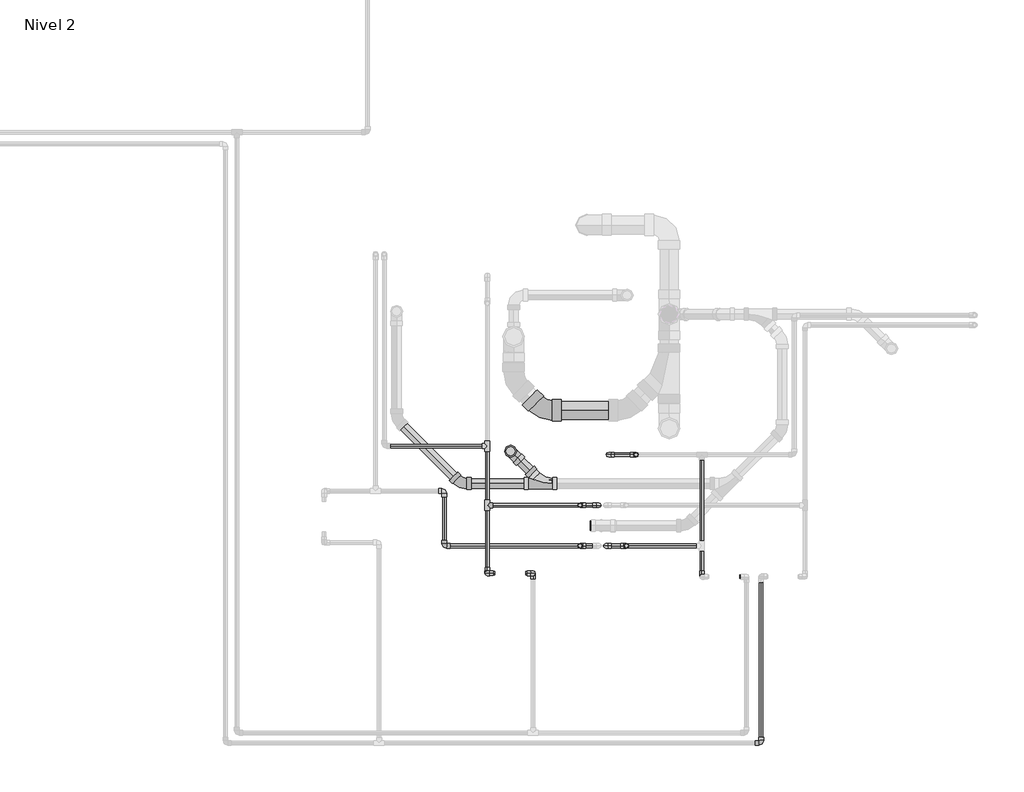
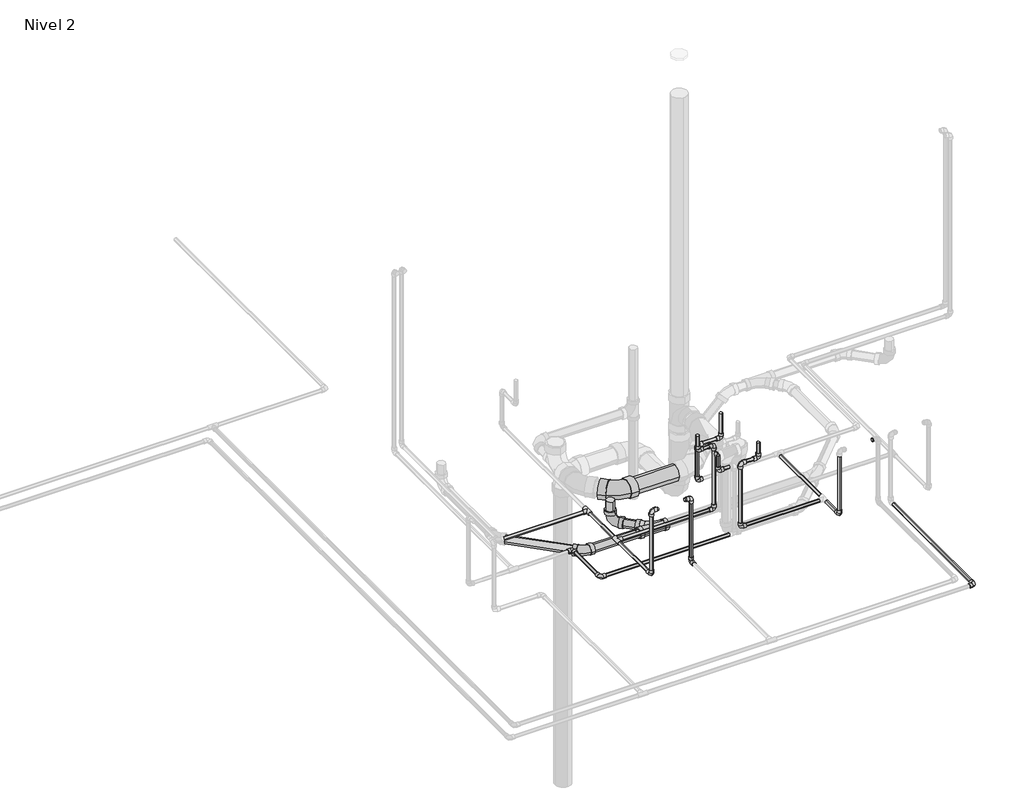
# One storey, part 2 of 9: 33 pipe segments, 24 pipe fittings.
"""IFC4 building model written with IfcOpenShell, lengths in millimetres."""

from ifc_helpers import new_model, si_unit, point, frame, frame_2d, origin, place, context, project, spatial, circle_curve, trimmed, segment, composite_curve, outline, extrude, transform, mapped, element, save
from components import pipe_fitting_ab418b84, pipe_fitting_0163322b, m_codo_pvc_serie_40_9ad74631, m_codo_pvc_serie_40_ba05d404, m_codo_pvc_serie_40_dwv1_5c0ec739, m_codo_pvc_serie_40_dwv1_9a7ca077, m_codo_pvc_serie_40_dwv1_6f1a2495

model = new_model("IFC4")

# Units and contexts
model_context = context("Model", 3, world=origin())
ifc_project = project(units=[si_unit("LENGTHUNIT", "METRE", prefix="MILLI")], contexts=[model_context])

# Site, building, storey
site = spatial("IfcSite", under=ifc_project)
building = spatial("IfcBuilding", under=site)
storey = spatial("IfcBuildingStorey", under=building, Name="Nivel 2", Elevation=2800.0)

# Pipe fittings
placement = place(None, origin())
pipe_fitting_shape = pipe_fitting_ab418b84(model_context)
element("IfcPipeFitting", 1, ObjectType="M_Te - PVC - Serie 40 : Estándar", at=placement, inside=storey, context=model_context, shape_type="MappedRepresentation", body=[
    mapped(pipe_fitting_shape, transform((6373.4849581, 5443.3784167, 2750.0), x_axis=(0.0, 1.0, 0.0), y_axis=(-1.0, 0.0, 0.0), z_axis=(0.0, 0.0, 1.0))),
])
element("IfcPipeFitting", 2, ObjectType="M_Te - PVC - Serie 40 : Estándar", at=placement, inside=storey, context=model_context, shape_type="MappedRepresentation", body=[
    mapped(pipe_fitting_shape, transform((6373.4849581, 5788.5620607, 2750.0), x_axis=(0.0, 1.0, 0.0), y_axis=(1.0, 0.0, 0.0), z_axis=(0.0, 0.0, -1.0))),
])
pipe_fitting_2_shape = pipe_fitting_0163322b(model_context)
element("IfcPipeFitting", 3, ObjectType="M_Sanitario con te de reducción - PVC - Serie 40 - DWV : Estándar", at=placement, inside=storey, context=model_context, shape_type="MappedRepresentation", body=[
    mapped(pipe_fitting_2_shape, transform((6697.357966, 5569.8260974, 2650.0), x_axis=(-1.0, 0.0, 0.0), y_axis=(0.0, -1.0, 0.0), z_axis=(0.0, 0.0, 1.0))),
])
m_codo_pvc_serie_40_shape = m_codo_pvc_serie_40_9ad74631(model_context)
element("IfcPipeFitting", 4, ObjectType="M_Codo - PVC - Serie 40 : Estándar", at=placement, inside=storey, context=model_context, shape_type="MappedRepresentation", body=[
    mapped(m_codo_pvc_serie_40_shape, transform((6913.1208859, 5443.3784167, 3200.0), x_axis=(0.0, 0.0, -1.0), y_axis=(1.0, 0.0, 0.0), z_axis=(0.0, -1.0, 0.0))),
])
element("IfcPipeFitting", 5, ObjectType="M_Codo - PVC - Serie 40 : Estándar", at=placement, inside=storey, context=model_context, shape_type="MappedRepresentation", body=[
    mapped(m_codo_pvc_serie_40_shape, transform((7022.0365713, 5443.3784167, 3200.0), x_axis=(1.0, 0.0, 0.0), y_axis=(0.0, 0.0, -1.0), z_axis=(0.0, 1.0, 0.0))),
])
element("IfcPipeFitting", 6, ObjectType="M_Codo - PVC - Serie 40 : Estándar", at=placement, inside=storey, context=model_context, shape_type="MappedRepresentation", body=[
    mapped(m_codo_pvc_serie_40_shape, transform((6640.0882468, 5047.0181394, 2750.0), x_axis=(0.0, 1.0, 0.0), y_axis=(0.0, 0.0, 1.0), z_axis=(1.0, 0.0, 0.0))),
])
element("IfcPipeFitting", 7, ObjectType="M_Codo - PVC - Serie 40 : Estándar", at=placement, inside=storey, context=model_context, shape_type="MappedRepresentation", body=[
    mapped(m_codo_pvc_serie_40_shape, transform((6640.0882468, 5047.0181394, 3200.0), x_axis=(0.0, 0.0, 1.0), y_axis=(-1.0, 0.0, 0.0), z_axis=(0.0, -1.0, 0.0))),
])
element("IfcPipeFitting", 8, ObjectType="M_Codo - PVC - Serie 40 : Estándar", at=placement, inside=storey, context=model_context, shape_type="MappedRepresentation", body=[
    mapped(m_codo_pvc_serie_40_shape, transform((6373.4849581, 5047.0181394, 3200.0), x_axis=(-1.0, 0.0, 0.0), y_axis=(0.0, 0.0, -1.0), z_axis=(0.0, -1.0, 0.0))),
])
element("IfcPipeFitting", 9, ObjectType="M_Codo - PVC - Serie 40 : Estándar", at=placement, inside=storey, context=model_context, shape_type="MappedRepresentation", body=[
    mapped(m_codo_pvc_serie_40_shape, transform((6373.4849581, 5047.0181394, 2750.0), x_axis=(0.0, 0.0, -1.0), y_axis=(0.0, 1.0, 0.0), z_axis=(1.0, 0.0, 0.0))),
])
element("IfcPipeFitting", 10, ObjectType="M_Codo - PVC - Serie 40 : Estándar", at=placement, inside=storey, context=model_context, shape_type="MappedRepresentation", body=[
    mapped(m_codo_pvc_serie_40_shape, transform((7022.0365713, 5443.3784167, 2750.0), x_axis=(0.0, 0.0, -1.0), y_axis=(-1.0, 0.0, 0.0), z_axis=(0.0, 1.0, 0.0))),
])
element("IfcPipeFitting", 11, ObjectType="M_Codo - PVC - Serie 40 : Estándar", at=placement, inside=storey, context=model_context, shape_type="MappedRepresentation", body=[
    mapped(m_codo_pvc_serie_40_shape, transform((7239.3408631, 5738.1215351, 3000.0), x_axis=(0.0, 0.0, -1.0), y_axis=(-1.0, 0.0, 0.0), z_axis=(0.0, 1.0, 0.0))),
])
element("IfcPipeFitting", 12, ObjectType="M_Codo - PVC - Serie 40 : Estándar", at=placement, inside=storey, context=model_context, shape_type="MappedRepresentation", body=[
    mapped(m_codo_pvc_serie_40_shape, transform((7079.3408631, 5738.1215351, 3000.0), x_axis=(-1.0, 0.0, 0.0), y_axis=(0.0, 0.0, -1.0), z_axis=(0.0, -1.0, 0.0))),
])
element("IfcPipeFitting", 13, ObjectType="M_Codo - PVC - Serie 40 : Estándar", at=placement, inside=storey, context=model_context, shape_type="MappedRepresentation", body=[
    mapped(m_codo_pvc_serie_40_shape, transform((7079.3408631, 5738.1215351, 2750.0), x_axis=(0.0, 0.0, -1.0), y_axis=(1.0, 0.0, 0.0), z_axis=(0.0, -1.0, 0.0))),
])
element("IfcPipeFitting", 14, ObjectType="M_Codo - PVC - Serie 40 : Estándar", at=placement, inside=storey, context=model_context, shape_type="MappedRepresentation", body=[
    mapped(m_codo_pvc_serie_40_shape, transform((7182.9224126, 5206.6215833, 3200.0), x_axis=(0.0, 0.0, -1.0), y_axis=(-1.0, 0.0, 0.0), z_axis=(0.0, 1.0, 0.0))),
])
element("IfcPipeFitting", 15, ObjectType="M_Codo - PVC - Serie 40 : Estándar", at=placement, inside=storey, context=model_context, shape_type="MappedRepresentation", body=[
    mapped(m_codo_pvc_serie_40_shape, transform((7062.9224126, 5206.6215833, 3200.0), x_axis=(-1.0, 0.0, 0.0), y_axis=(0.0, 0.0, -1.0), z_axis=(0.0, -1.0, 0.0))),
])
element("IfcPipeFitting", 16, ObjectType="M_Codo - PVC - Serie 40 : Estándar", at=placement, inside=storey, context=model_context, shape_type="MappedRepresentation", body=[
    mapped(m_codo_pvc_serie_40_shape, transform((7062.9224126, 5206.6215833, 2750.0), x_axis=(0.0, 0.0, -1.0), y_axis=(1.0, 0.0, 0.0), z_axis=(0.0, -1.0, 0.0))),
])
element("IfcPipeFitting", 17, ObjectType="M_Codo - PVC - Serie 40 : Estándar", at=placement, inside=storey, context=model_context, shape_type="MappedRepresentation", body=[
    mapped(m_codo_pvc_serie_40_shape, transform((7622.9224126, 5026.6215833, 2750.0), x_axis=(0.0, -1.0, 0.0), y_axis=(0.0, 0.0, 1.0), z_axis=(-1.0, 0.0, 0.0))),
])
element("IfcPipeFitting", 18, ObjectType="M_Codo - PVC - Serie 40 : Estándar", at=placement, inside=storey, context=model_context, shape_type="MappedRepresentation", body=[
    mapped(m_codo_pvc_serie_40_shape, transform((7968.2736664, 4058.5261191, 2720.0), x_axis=(1.0, 0.0, 0.0), y_axis=(0.0, 1.0, 0.0), z_axis=(0.0, 0.0, 1.0))),
])
element("IfcPipeFitting", 19, ObjectType="M_Codo - PVC - Serie 40 : Estándar", at=placement, inside=storey, context=model_context, shape_type="MappedRepresentation", body=[
    mapped(m_codo_pvc_serie_40_shape, transform((6123.2442783, 5526.6215833, 2720.0), x_axis=(0.0, 1.0, 0.0), y_axis=(-1.0, 0.0, 0.0), z_axis=(0.0, 0.0, 1.0))),
])
element("IfcPipeFitting", 20, ObjectType="M_Codo - PVC - Serie 40 : Estándar", at=placement, inside=storey, context=model_context, shape_type="MappedRepresentation", body=[
    mapped(m_codo_pvc_serie_40_shape, transform((6123.2442783, 5206.6215833, 2720.0), x_axis=(0.0, -1.0, 0.0), y_axis=(1.0, 0.0, 0.0), z_axis=(0.0, 0.0, 1.0))),
])
m_codo_pvc_serie_40_2_shape = m_codo_pvc_serie_40_ba05d404(model_context)
element("IfcPipeFitting", 21, ObjectType="M_Codo - PVC - Serie 40 : Estándar", at=placement, inside=storey, context=model_context, shape_type="MappedRepresentation", body=[
    mapped(m_codo_pvc_serie_40_2_shape, transform((6913.1208859, 5206.6215833, 3200.0), x_axis=(0.0, 0.0, -1.0), y_axis=(-1.0, 0.0, 0.0), z_axis=(0.0, 1.0, 0.0))),
])
m_codo_pvc_serie_40_dwv1_shape = m_codo_pvc_serie_40_dwv1_5c0ec739(model_context)
element("IfcPipeFitting", 22, ObjectType="M_Codo - PVC - Serie 40 - DWV1 : Estándar 2", at=placement, inside=storey, context=model_context, shape_type="MappedRepresentation", body=[
    mapped(m_codo_pvc_serie_40_dwv1_shape, transform((6509.082159, 5758.1019044, 2650.0), x_axis=(0.0, 0.0, -1.0), y_axis=(0.7071067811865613, -0.7071067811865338, 0.0), z_axis=(-0.7071067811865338, -0.7071067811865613, 0.0))),
])
m_codo_pvc_serie_40_dwv1_2_shape = m_codo_pvc_serie_40_dwv1_9a7ca077(model_context)
element("IfcPipeFitting", 23, ObjectType="M_Codo - PVC - Serie 40 - DWV1 : Estándar 2", at=placement, inside=storey, context=model_context, shape_type="MappedRepresentation", body=[
    mapped(m_codo_pvc_serie_40_dwv1_2_shape, transform((6696.5258369, 5996.1455314, 2650.0), x_axis=(0.7071067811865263, -0.7071067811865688, 0.0), y_axis=(0.7071067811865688, 0.7071067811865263, 0.0), z_axis=(0.0, 0.0, 1.0))),
])
m_codo_pvc_serie_40_dwv1_3_shape = m_codo_pvc_serie_40_dwv1_6f1a2495(model_context)
element("IfcPipeFitting", 24, ObjectType="M_Codo - PVC - Serie 40 - DWV1 : Estándar 2", at=placement, inside=storey, context=model_context, shape_type="MappedRepresentation", body=[
    mapped(m_codo_pvc_serie_40_dwv1_3_shape, transform((6219.5377594, 5569.8260974, 2650.0), x_axis=(0.7071067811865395, -0.7071067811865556, 0.0), y_axis=(0.7071067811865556, 0.7071067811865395, 0.0), z_axis=(0.0, 0.0, 1.0))),
])

# Pipe segments
element("IfcPipeSegment", 25, ObjectType="Tuberia PVC Agua Fria", at=placement, inside=storey, context=model_context, shape_type="SweptSolid", body=[
    extrude(outline(composite_curve([segment(trimmed(circle_curve(frame_2d((5443.3784167, 2750.0)), 10.31875), [point((5453.6971667, 2750.0))], [point((5443.3784167, 2739.68125))], False, "CARTESIAN"), True, "CONTINUOUS"), segment(trimmed(circle_curve(frame_2d((5443.3784167, 2750.0)), 10.31875), [point((5443.3784167, 2739.68125))], [point((5433.0596667, 2750.0))], False, "CARTESIAN"), True, "CONTINUOUS"), segment(trimmed(circle_curve(frame_2d((5443.3784167, 2750.0)), 10.31875), [point((5433.0596667, 2750.0))], [point((5443.3784167, 2760.31875))], False, "CARTESIAN"), True, "CONTINUOUS"), segment(trimmed(circle_curve(frame_2d((5443.3784167, 2750.0)), 10.31875), [point((5443.3784167, 2760.31875))], [point((5453.6971667, 2750.0))], False, "CARTESIAN"), True, "CONTINUOUS")], self_intersect=False)), frame((6403.9451144, 0.0, 0.0), z_axis=(1.0, 0.0, 0.0), x_axis=(0.0, 1.0, 0.0)), (0.0, 0.0, 1.0), 584.6904569),
])
element("IfcPipeSegment", 26, ObjectType="Tuberia PVC Agua Fria", at=placement, inside=storey, context=model_context, shape_type="SweptSolid", body=[
    extrude(outline(composite_curve([segment(trimmed(circle_curve(frame_2d((5443.3784167, 3200.0)), 10.31875), [point((5433.0596667, 3200.0))], [point((5443.3784167, 3210.31875))], False, "CARTESIAN"), True, "CONTINUOUS"), segment(trimmed(circle_curve(frame_2d((5443.3784167, 3200.0)), 10.31875), [point((5443.3784167, 3210.31875))], [point((5453.6971667, 3200.0))], False, "CARTESIAN"), True, "CONTINUOUS"), segment(trimmed(circle_curve(frame_2d((5443.3784167, 3200.0)), 10.31875), [point((5453.6971667, 3200.0))], [point((5443.3784167, 3189.68125))], False, "CARTESIAN"), True, "CONTINUOUS"), segment(trimmed(circle_curve(frame_2d((5443.3784167, 3200.0)), 10.31875), [point((5443.3784167, 3189.68125))], [point((5433.0596667, 3200.0))], False, "CARTESIAN"), True, "CONTINUOUS")], self_intersect=False)), frame((6946.5218859, 0.0, 0.0), z_axis=(1.0, 0.0, 0.0), x_axis=(0.0, 1.0, 0.0)), (0.0, 0.0, 1.0), 42.1136854),
])
element("IfcPipeSegment", 27, ObjectType="Tuberia PVC Agua Fria", at=placement, inside=storey, context=model_context, shape_type="SweptSolid", body=[
    extrude(outline(composite_curve([segment(trimmed(circle_curve(frame_2d((6913.1208859, 5443.3784167)), 10.31875), [point((6923.4396359, 5443.3784167))], [point((6913.1208859, 5433.0596667))], False, "CARTESIAN"), True, "CONTINUOUS"), segment(trimmed(circle_curve(frame_2d((6913.1208859, 5443.3784167)), 10.31875), [point((6913.1208859, 5433.0596667))], [point((6902.8021359, 5443.3784167))], False, "CARTESIAN"), True, "CONTINUOUS"), segment(trimmed(circle_curve(frame_2d((6913.1208859, 5443.3784167)), 10.31875), [point((6902.8021359, 5443.3784167))], [point((6913.1208859, 5453.6971667))], False, "CARTESIAN"), True, "CONTINUOUS"), segment(trimmed(circle_curve(frame_2d((6913.1208859, 5443.3784167)), 10.31875), [point((6913.1208859, 5453.6971667))], [point((6923.4396359, 5443.3784167))], False, "CARTESIAN"), True, "CONTINUOUS")], self_intersect=False)), frame((0.0, 0.0, 3233.401), z_axis=(0.0, 0.0, 1.0), x_axis=(1.0, 0.0, 0.0)), (0.0, 0.0, 1.0), 74.0983614),
])
element("IfcPipeSegment", 28, ObjectType="Tuberia PVC Agua Fria", at=placement, inside=storey, context=model_context, shape_type="SweptSolid", body=[
    extrude(outline(composite_curve([segment(trimmed(circle_curve(frame_2d((7022.0365713, 5443.3784167)), 10.31875), [point((7032.3553213, 5443.3784167))], [point((7022.0365713, 5433.0596667))], False, "CARTESIAN"), True, "CONTINUOUS"), segment(trimmed(circle_curve(frame_2d((7022.0365713, 5443.3784167)), 10.31875), [point((7022.0365713, 5433.0596667))], [point((7011.7178213, 5443.3784167))], False, "CARTESIAN"), True, "CONTINUOUS"), segment(trimmed(circle_curve(frame_2d((7022.0365713, 5443.3784167)), 10.31875), [point((7011.7178213, 5443.3784167))], [point((7022.0365713, 5453.6971667))], False, "CARTESIAN"), True, "CONTINUOUS"), segment(trimmed(circle_curve(frame_2d((7022.0365713, 5443.3784167)), 10.31875), [point((7022.0365713, 5453.6971667))], [point((7032.3553213, 5443.3784167))], False, "CARTESIAN"), True, "CONTINUOUS")], self_intersect=False)), frame((0.0, 0.0, 2783.401), z_axis=(0.0, 0.0, 1.0), x_axis=(1.0, 0.0, 0.0)), (0.0, 0.0, 1.0), 383.198),
])
element("IfcPipeSegment", 29, ObjectType="Tuberia PVC Agua Fria", at=placement, inside=storey, context=model_context, shape_type="SweptSolid", body=[
    extrude(outline(composite_curve([segment(trimmed(circle_curve(frame_2d((5047.0181394, 3200.0)), 10.31875), [point((5057.3368894, 3200.0))], [point((5047.0181394, 3189.68125))], False, "CARTESIAN"), True, "CONTINUOUS"), segment(trimmed(circle_curve(frame_2d((5047.0181394, 3200.0)), 10.31875), [point((5047.0181394, 3189.68125))], [point((5036.6993894, 3200.0))], False, "CARTESIAN"), True, "CONTINUOUS"), segment(trimmed(circle_curve(frame_2d((5047.0181394, 3200.0)), 10.31875), [point((5036.6993894, 3200.0))], [point((5047.0181394, 3210.31875))], False, "CARTESIAN"), True, "CONTINUOUS"), segment(trimmed(circle_curve(frame_2d((5047.0181394, 3200.0)), 10.31875), [point((5047.0181394, 3210.31875))], [point((5057.3368894, 3200.0))], False, "CARTESIAN"), True, "CONTINUOUS")], self_intersect=False)), frame((6406.8859581, 0.0, 0.0), z_axis=(1.0, 0.0, 0.0), x_axis=(0.0, 1.0, 0.0)), (0.0, 0.0, 1.0), 10.9006444),
])
element("IfcPipeSegment", 30, ObjectType="Tuberia PVC Agua Fria", at=placement, inside=storey, context=model_context, shape_type="SweptSolid", body=[
    extrude(outline(composite_curve([segment(trimmed(circle_curve(frame_2d((6640.0882468, 5047.0181394)), 10.31875), [point((6629.7694968, 5047.0181394))], [point((6640.0882468, 5057.3368894))], False, "CARTESIAN"), True, "CONTINUOUS"), segment(trimmed(circle_curve(frame_2d((6640.0882468, 5047.0181394)), 10.31875), [point((6640.0882468, 5057.3368894))], [point((6650.4069968, 5047.0181394))], False, "CARTESIAN"), True, "CONTINUOUS"), segment(trimmed(circle_curve(frame_2d((6640.0882468, 5047.0181394)), 10.31875), [point((6650.4069968, 5047.0181394))], [point((6640.0882468, 5036.6993894))], False, "CARTESIAN"), True, "CONTINUOUS"), segment(trimmed(circle_curve(frame_2d((6640.0882468, 5047.0181394)), 10.31875), [point((6640.0882468, 5036.6993894))], [point((6629.7694968, 5047.0181394))], False, "CARTESIAN"), True, "CONTINUOUS")], self_intersect=False)), frame((0.0, 0.0, 2783.401), z_axis=(0.0, 0.0, 1.0), x_axis=(1.0, 0.0, 0.0)), (0.0, 0.0, 1.0), 383.198),
])
element("IfcPipeSegment", 31, ObjectType="Tuberia PVC Agua Fria", at=placement, inside=storey, context=model_context, shape_type="SweptSolid", body=[
    extrude(outline(composite_curve([segment(trimmed(circle_curve(frame_2d((6373.4849581, 5047.0181394)), 10.31875), [point((6383.8037081, 5047.0181394))], [point((6373.4849581, 5036.6993894))], False, "CARTESIAN"), True, "CONTINUOUS"), segment(trimmed(circle_curve(frame_2d((6373.4849581, 5047.0181394)), 10.31875), [point((6373.4849581, 5036.6993894))], [point((6363.1662081, 5047.0181394))], False, "CARTESIAN"), True, "CONTINUOUS"), segment(trimmed(circle_curve(frame_2d((6373.4849581, 5047.0181394)), 10.31875), [point((6363.1662081, 5047.0181394))], [point((6373.4849581, 5057.3368894))], False, "CARTESIAN"), True, "CONTINUOUS"), segment(trimmed(circle_curve(frame_2d((6373.4849581, 5047.0181394)), 10.31875), [point((6373.4849581, 5057.3368894))], [point((6383.8037081, 5047.0181394))], False, "CARTESIAN"), True, "CONTINUOUS")], self_intersect=False)), frame((0.0, 0.0, 2783.401), z_axis=(0.0, 0.0, 1.0), x_axis=(1.0, 0.0, 0.0)), (0.0, 0.0, 1.0), 383.198),
])
element("IfcPipeSegment", 32, ObjectType="Tuberia PVC Agua Fria", at=placement, inside=storey, context=model_context, shape_type="SweptSolid", body=[
    extrude(outline(composite_curve([segment(trimmed(circle_curve(frame_2d((2750.0, 6373.4849581)), 10.31875), [point((2750.0, 6383.8037081))], [point((2760.31875, 6373.4849581))], False, "CARTESIAN"), True, "CONTINUOUS"), segment(trimmed(circle_curve(frame_2d((2750.0, 6373.4849581)), 10.31875), [point((2760.31875, 6373.4849581))], [point((2750.0, 6363.1662081))], False, "CARTESIAN"), True, "CONTINUOUS"), segment(trimmed(circle_curve(frame_2d((2750.0, 6373.4849581)), 10.31875), [point((2750.0, 6363.1662081))], [point((2739.68125, 6373.4849581))], False, "CARTESIAN"), True, "CONTINUOUS"), segment(trimmed(circle_curve(frame_2d((2750.0, 6373.4849581)), 10.31875), [point((2739.68125, 6373.4849581))], [point((2750.0, 6383.8037081))], False, "CARTESIAN"), True, "CONTINUOUS")], self_intersect=False)), frame((0.0, 5080.4191394, 0.0), z_axis=(0.0, 1.0, 0.0), x_axis=(0.0, 0.0, 1.0)), (0.0, 0.0, 1.0), 332.4991211),
])
element("IfcPipeSegment", 33, ObjectType="Tuberia PVC Agua Fria", at=placement, inside=storey, context=model_context, shape_type="SweptSolid", body=[
    extrude(outline(composite_curve([segment(trimmed(circle_curve(frame_2d((5738.1215351, 3000.0)), 10.31875), [point((5748.4402851, 3000.0))], [point((5738.1215351, 2989.68125))], False, "CARTESIAN"), True, "CONTINUOUS"), segment(trimmed(circle_curve(frame_2d((5738.1215351, 3000.0)), 10.31875), [point((5738.1215351, 2989.68125))], [point((5727.8027851, 3000.0))], False, "CARTESIAN"), True, "CONTINUOUS"), segment(trimmed(circle_curve(frame_2d((5738.1215351, 3000.0)), 10.31875), [point((5727.8027851, 3000.0))], [point((5738.1215351, 3010.31875))], False, "CARTESIAN"), True, "CONTINUOUS"), segment(trimmed(circle_curve(frame_2d((5738.1215351, 3000.0)), 10.31875), [point((5738.1215351, 3010.31875))], [point((5748.4402851, 3000.0))], False, "CARTESIAN"), True, "CONTINUOUS")], self_intersect=False)), frame((7112.7418631, 0.0, 0.0), z_axis=(1.0, 0.0, 0.0), x_axis=(0.0, 1.0, 0.0)), (0.0, 0.0, 1.0), 93.198),
])
element("IfcPipeSegment", 34, ObjectType="Tuberia PVC Agua Fria", at=placement, inside=storey, context=model_context, shape_type="SweptSolid", body=[
    extrude(outline(composite_curve([segment(trimmed(circle_curve(frame_2d((7239.3408631, 5738.1215351)), 10.31875), [point((7249.6596131, 5738.1215351))], [point((7239.3408631, 5727.8027851))], False, "CARTESIAN"), True, "CONTINUOUS"), segment(trimmed(circle_curve(frame_2d((7239.3408631, 5738.1215351)), 10.31875), [point((7239.3408631, 5727.8027851))], [point((7229.0221131, 5738.1215351))], False, "CARTESIAN"), True, "CONTINUOUS"), segment(trimmed(circle_curve(frame_2d((7239.3408631, 5738.1215351)), 10.31875), [point((7229.0221131, 5738.1215351))], [point((7239.3408631, 5748.4402851))], False, "CARTESIAN"), True, "CONTINUOUS"), segment(trimmed(circle_curve(frame_2d((7239.3408631, 5738.1215351)), 10.31875), [point((7239.3408631, 5748.4402851))], [point((7249.6596131, 5738.1215351))], False, "CARTESIAN"), True, "CONTINUOUS")], self_intersect=False)), frame((0.0, 0.0, 3033.401), z_axis=(0.0, 0.0, 1.0), x_axis=(1.0, 0.0, 0.0)), (0.0, 0.0, 1.0), 139.7562509),
])
element("IfcPipeSegment", 35, ObjectType="Tuberia PVC Agua Fria", at=placement, inside=storey, context=model_context, shape_type="SweptSolid", body=[
    extrude(outline(composite_curve([segment(trimmed(circle_curve(frame_2d((7079.3408631, 5738.1215351)), 10.31875), [point((7089.6596131, 5738.1215351))], [point((7079.3408631, 5727.8027851))], False, "CARTESIAN"), True, "CONTINUOUS"), segment(trimmed(circle_curve(frame_2d((7079.3408631, 5738.1215351)), 10.31875), [point((7079.3408631, 5727.8027851))], [point((7069.0221131, 5738.1215351))], False, "CARTESIAN"), True, "CONTINUOUS"), segment(trimmed(circle_curve(frame_2d((7079.3408631, 5738.1215351)), 10.31875), [point((7069.0221131, 5738.1215351))], [point((7079.3408631, 5748.4402851))], False, "CARTESIAN"), True, "CONTINUOUS"), segment(trimmed(circle_curve(frame_2d((7079.3408631, 5738.1215351)), 10.31875), [point((7079.3408631, 5748.4402851))], [point((7089.6596131, 5738.1215351))], False, "CARTESIAN"), True, "CONTINUOUS")], self_intersect=False)), frame((0.0, 0.0, 2783.401), z_axis=(0.0, 0.0, 1.0), x_axis=(1.0, 0.0, 0.0)), (0.0, 0.0, 1.0), 183.198),
])
element("IfcPipeSegment", 36, ObjectType="Tuberia PVC Agua Fria", at=placement, inside=storey, context=model_context, shape_type="SweptSolid", body=[
    extrude(outline(composite_curve([segment(trimmed(circle_curve(frame_2d((2750.0, 7622.9224126)), 10.31875), [point((2750.0, 7633.2411626))], [point((2760.31875, 7622.9224126))], False, "CARTESIAN"), True, "CONTINUOUS"), segment(trimmed(circle_curve(frame_2d((2750.0, 7622.9224126)), 10.31875), [point((2760.31875, 7622.9224126))], [point((2750.0, 7612.6036626))], False, "CARTESIAN"), True, "CONTINUOUS"), segment(trimmed(circle_curve(frame_2d((2750.0, 7622.9224126)), 10.31875), [point((2750.0, 7612.6036626))], [point((2739.68125, 7622.9224126))], False, "CARTESIAN"), True, "CONTINUOUS"), segment(trimmed(circle_curve(frame_2d((2750.0, 7622.9224126)), 10.31875), [point((2739.68125, 7622.9224126))], [point((2750.0, 7633.2411626))], False, "CARTESIAN"), True, "CONTINUOUS")], self_intersect=False)), frame((0.0, 5237.0817396, 0.0), z_axis=(0.0, 1.0, 0.0), x_axis=(0.0, 0.0, 1.0)), (0.0, 0.0, 1.0), 470.5796393),
])
element("IfcPipeSegment", 37, ObjectType="Tuberia PVC Agua Fria", at=placement, inside=storey, context=model_context, shape_type="SweptSolid", body=[
    extrude(outline(composite_curve([segment(trimmed(circle_curve(frame_2d((5206.6215833, 3200.0)), 10.31875), [point((5216.9403333, 3200.0))], [point((5206.6215833, 3189.68125))], False, "CARTESIAN"), True, "CONTINUOUS"), segment(trimmed(circle_curve(frame_2d((5206.6215833, 3200.0)), 10.31875), [point((5206.6215833, 3189.68125))], [point((5196.3028333, 3200.0))], False, "CARTESIAN"), True, "CONTINUOUS"), segment(trimmed(circle_curve(frame_2d((5206.6215833, 3200.0)), 10.31875), [point((5196.3028333, 3200.0))], [point((5206.6215833, 3210.31875))], False, "CARTESIAN"), True, "CONTINUOUS"), segment(trimmed(circle_curve(frame_2d((5206.6215833, 3200.0)), 10.31875), [point((5206.6215833, 3210.31875))], [point((5216.9403333, 3200.0))], False, "CARTESIAN"), True, "CONTINUOUS")], self_intersect=False)), frame((7096.3234126, 0.0, 0.0), z_axis=(1.0, 0.0, 0.0), x_axis=(0.0, 1.0, 0.0)), (0.0, 0.0, 1.0), 53.198),
])
element("IfcPipeSegment", 38, ObjectType="Tuberia PVC Agua Fria", at=placement, inside=storey, context=model_context, shape_type="SweptSolid", body=[
    extrude(outline(composite_curve([segment(trimmed(circle_curve(frame_2d((7182.9224126, 5206.6215833)), 10.31875), [point((7193.2411626, 5206.6215833))], [point((7182.9224126, 5196.3028333))], False, "CARTESIAN"), True, "CONTINUOUS"), segment(trimmed(circle_curve(frame_2d((7182.9224126, 5206.6215833)), 10.31875), [point((7182.9224126, 5196.3028333))], [point((7172.6036626, 5206.6215833))], False, "CARTESIAN"), True, "CONTINUOUS"), segment(trimmed(circle_curve(frame_2d((7182.9224126, 5206.6215833)), 10.31875), [point((7172.6036626, 5206.6215833))], [point((7182.9224126, 5216.9403333))], False, "CARTESIAN"), True, "CONTINUOUS"), segment(trimmed(circle_curve(frame_2d((7182.9224126, 5206.6215833)), 10.31875), [point((7182.9224126, 5216.9403333))], [point((7193.2411626, 5206.6215833))], False, "CARTESIAN"), True, "CONTINUOUS")], self_intersect=False)), frame((0.0, 0.0, 3233.401), z_axis=(0.0, 0.0, 1.0), x_axis=(1.0, 0.0, 0.0)), (0.0, 0.0, 1.0), 74.0983614),
])
element("IfcPipeSegment", 39, ObjectType="Tuberia PVC Agua Fria", at=placement, inside=storey, context=model_context, shape_type="SweptSolid", body=[
    extrude(outline(composite_curve([segment(trimmed(circle_curve(frame_2d((5206.6215833, 2750.0)), 10.31875), [point((5196.3028333, 2750.0))], [point((5206.6215833, 2760.31875))], False, "CARTESIAN"), True, "CONTINUOUS"), segment(trimmed(circle_curve(frame_2d((5206.6215833, 2750.0)), 10.31875), [point((5206.6215833, 2760.31875))], [point((5216.9403333, 2750.0))], False, "CARTESIAN"), True, "CONTINUOUS"), segment(trimmed(circle_curve(frame_2d((5206.6215833, 2750.0)), 10.31875), [point((5216.9403333, 2750.0))], [point((5206.6215833, 2739.68125))], False, "CARTESIAN"), True, "CONTINUOUS"), segment(trimmed(circle_curve(frame_2d((5206.6215833, 2750.0)), 10.31875), [point((5206.6215833, 2739.68125))], [point((5196.3028333, 2750.0))], False, "CARTESIAN"), True, "CONTINUOUS")], self_intersect=False)), frame((7096.3234126, 0.0, 0.0), z_axis=(1.0, 0.0, 0.0), x_axis=(0.0, 1.0, 0.0)), (0.0, 0.0, 1.0), 496.1388438),
])
element("IfcPipeSegment", 40, ObjectType="Tuberia PVC Agua Fria", at=placement, inside=storey, context=model_context, shape_type="SweptSolid", body=[
    extrude(outline(composite_curve([segment(trimmed(circle_curve(frame_2d((7062.9224126, 5206.6215833)), 10.31875), [point((7073.2411626, 5206.6215833))], [point((7062.9224126, 5196.3028333))], False, "CARTESIAN"), True, "CONTINUOUS"), segment(trimmed(circle_curve(frame_2d((7062.9224126, 5206.6215833)), 10.31875), [point((7062.9224126, 5196.3028333))], [point((7052.6036626, 5206.6215833))], False, "CARTESIAN"), True, "CONTINUOUS"), segment(trimmed(circle_curve(frame_2d((7062.9224126, 5206.6215833)), 10.31875), [point((7052.6036626, 5206.6215833))], [point((7062.9224126, 5216.9403333))], False, "CARTESIAN"), True, "CONTINUOUS"), segment(trimmed(circle_curve(frame_2d((7062.9224126, 5206.6215833)), 10.31875), [point((7062.9224126, 5216.9403333))], [point((7073.2411626, 5206.6215833))], False, "CARTESIAN"), True, "CONTINUOUS")], self_intersect=False)), frame((0.0, 0.0, 2783.401), z_axis=(0.0, 0.0, 1.0), x_axis=(1.0, 0.0, 0.0)), (0.0, 0.0, 1.0), 383.198),
])
element("IfcPipeSegment", 41, ObjectType="Tuberia PVC Agua Fria", at=placement, inside=storey, context=model_context, shape_type="SweptSolid", body=[
    extrude(outline(composite_curve([segment(trimmed(circle_curve(frame_2d((2750.0, 7622.9224126)), 10.31875), [point((2750.0, 7612.6036626))], [point((2739.68125, 7622.9224126))], False, "CARTESIAN"), True, "CONTINUOUS"), segment(trimmed(circle_curve(frame_2d((2750.0, 7622.9224126)), 10.31875), [point((2739.68125, 7622.9224126))], [point((2750.0, 7633.2411626))], False, "CARTESIAN"), True, "CONTINUOUS"), segment(trimmed(circle_curve(frame_2d((2750.0, 7622.9224126)), 10.31875), [point((2750.0, 7633.2411626))], [point((2760.31875, 7622.9224126))], False, "CARTESIAN"), True, "CONTINUOUS"), segment(trimmed(circle_curve(frame_2d((2750.0, 7622.9224126)), 10.31875), [point((2760.31875, 7622.9224126))], [point((2750.0, 7612.6036626))], False, "CARTESIAN"), True, "CONTINUOUS")], self_intersect=False)), frame((0.0, 5060.0225833, 0.0), z_axis=(0.0, 1.0, 0.0), x_axis=(0.0, 0.0, 1.0)), (0.0, 0.0, 1.0), 116.1388438),
])
element("IfcPipeSegment", 42, ObjectType="Tuberia PVC Agua Fria", at=placement, inside=storey, context=model_context, shape_type="SweptSolid", body=[
    extrude(outline(composite_curve([segment(trimmed(circle_curve(frame_2d((5026.6215833, 3200.0)), 10.31875), [point((5016.3028333, 3200.0))], [point((5026.6215833, 3210.31875))], False, "CARTESIAN"), True, "CONTINUOUS"), segment(trimmed(circle_curve(frame_2d((5026.6215833, 3200.0)), 10.31875), [point((5026.6215833, 3210.31875))], [point((5036.9403333, 3200.0))], False, "CARTESIAN"), True, "CONTINUOUS"), segment(trimmed(circle_curve(frame_2d((5026.6215833, 3200.0)), 10.31875), [point((5036.9403333, 3200.0))], [point((5026.6215833, 3189.68125))], False, "CARTESIAN"), True, "CONTINUOUS"), segment(trimmed(circle_curve(frame_2d((5026.6215833, 3200.0)), 10.31875), [point((5026.6215833, 3189.68125))], [point((5016.3028333, 3200.0))], False, "CARTESIAN"), True, "CONTINUOUS")], self_intersect=False)), frame((7841.9224126, 0.0, 0.0), z_axis=(1.0, 0.0, 0.0), x_axis=(0.0, 1.0, 0.0)), (0.0, 0.0, 1.0), 7.599),
])
element("IfcPipeSegment", 43, ObjectType="Tuberia PVC Agua Fria", at=placement, inside=storey, context=model_context, shape_type="SweptSolid", body=[
    extrude(outline(composite_curve([segment(trimmed(circle_curve(frame_2d((7622.9224126, 5026.6215833)), 10.31875), [point((7612.6036626, 5026.6215833))], [point((7622.9224126, 5036.9403333))], False, "CARTESIAN"), True, "CONTINUOUS"), segment(trimmed(circle_curve(frame_2d((7622.9224126, 5026.6215833)), 10.31875), [point((7622.9224126, 5036.9403333))], [point((7633.2411626, 5026.6215833))], False, "CARTESIAN"), True, "CONTINUOUS"), segment(trimmed(circle_curve(frame_2d((7622.9224126, 5026.6215833)), 10.31875), [point((7633.2411626, 5026.6215833))], [point((7622.9224126, 5016.3028333))], False, "CARTESIAN"), True, "CONTINUOUS"), segment(trimmed(circle_curve(frame_2d((7622.9224126, 5026.6215833)), 10.31875), [point((7622.9224126, 5016.3028333))], [point((7612.6036626, 5026.6215833))], False, "CARTESIAN"), True, "CONTINUOUS")], self_intersect=False)), frame((0.0, 0.0, 2783.401), z_axis=(0.0, 0.0, 1.0), x_axis=(1.0, 0.0, 0.0)), (0.0, 0.0, 1.0), 383.198),
])
element("IfcPipeSegment", 44, ObjectType="Tuberia PVC Agua Fria", at=placement, inside=storey, context=model_context, shape_type="SweptSolid", body=[
    extrude(outline(composite_curve([segment(trimmed(circle_curve(frame_2d((5788.5620607, 2750.0)), 10.31875), [point((5798.8808107, 2750.0))], [point((5788.5620607, 2739.68125))], False, "CARTESIAN"), True, "CONTINUOUS"), segment(trimmed(circle_curve(frame_2d((5788.5620607, 2750.0)), 10.31875), [point((5788.5620607, 2739.68125))], [point((5778.2433107, 2750.0))], False, "CARTESIAN"), True, "CONTINUOUS"), segment(trimmed(circle_curve(frame_2d((5788.5620607, 2750.0)), 10.31875), [point((5778.2433107, 2750.0))], [point((5788.5620607, 2760.31875))], False, "CARTESIAN"), True, "CONTINUOUS"), segment(trimmed(circle_curve(frame_2d((5788.5620607, 2750.0)), 10.31875), [point((5788.5620607, 2760.31875))], [point((5798.8808107, 2750.0))], False, "CARTESIAN"), True, "CONTINUOUS")], self_intersect=False)), frame((5806.8859581, 0.0, 0.0), z_axis=(1.0, 0.0, 0.0), x_axis=(0.0, 1.0, 0.0)), (0.0, 0.0, 1.0), 536.1388437),
])
element("IfcPipeSegment", 45, ObjectType="Tuberia PVC Agua Fria", at=placement, inside=storey, context=model_context, shape_type="SweptSolid", body=[
    extrude(outline(composite_curve([segment(trimmed(circle_curve(frame_2d((2750.0, 6373.4849581)), 10.31875), [point((2750.0, 6383.8037081))], [point((2760.31875, 6373.4849581))], False, "CARTESIAN"), True, "CONTINUOUS"), segment(trimmed(circle_curve(frame_2d((2750.0, 6373.4849581)), 10.31875), [point((2760.31875, 6373.4849581))], [point((2750.0, 6363.1662081))], False, "CARTESIAN"), True, "CONTINUOUS"), segment(trimmed(circle_curve(frame_2d((2750.0, 6373.4849581)), 10.31875), [point((2750.0, 6363.1662081))], [point((2739.68125, 6373.4849581))], False, "CARTESIAN"), True, "CONTINUOUS"), segment(trimmed(circle_curve(frame_2d((2750.0, 6373.4849581)), 10.31875), [point((2739.68125, 6373.4849581))], [point((2750.0, 6383.8037081))], False, "CARTESIAN"), True, "CONTINUOUS")], self_intersect=False)), frame((0.0, 5473.8385729, 0.0), z_axis=(0.0, 1.0, 0.0), x_axis=(0.0, 0.0, 1.0)), (0.0, 0.0, 1.0), 284.2633315),
])
element("IfcPipeSegment", 46, ObjectType="Tuberia PVC Agua Fria", at=placement, inside=storey, context=model_context, shape_type="SweptSolid", body=[
    extrude(outline(composite_curve([segment(trimmed(circle_curve(frame_2d((5047.0181394, 3200.0)), 10.31875), [point((5057.3368894, 3200.0))], [point((5047.0181394, 3189.68125))], False, "CARTESIAN"), True, "CONTINUOUS"), segment(trimmed(circle_curve(frame_2d((5047.0181394, 3200.0)), 10.31875), [point((5047.0181394, 3189.68125))], [point((5036.6993894, 3200.0))], False, "CARTESIAN"), True, "CONTINUOUS"), segment(trimmed(circle_curve(frame_2d((5047.0181394, 3200.0)), 10.31875), [point((5036.6993894, 3200.0))], [point((5047.0181394, 3210.31875))], False, "CARTESIAN"), True, "CONTINUOUS"), segment(trimmed(circle_curve(frame_2d((5047.0181394, 3200.0)), 10.31875), [point((5047.0181394, 3210.31875))], [point((5057.3368894, 3200.0))], False, "CARTESIAN"), True, "CONTINUOUS")], self_intersect=False)), frame((6595.7866025, 0.0, 0.0), z_axis=(1.0, 0.0, 0.0), x_axis=(0.0, 1.0, 0.0)), (0.0, 0.0, 1.0), 10.9006444),
])
element("IfcPipeSegment", 47, ObjectType="Tuberia PVC Agua Caliente", at=placement, inside=storey, context=model_context, shape_type="SweptSolid", body=[
    extrude(outline(composite_curve([segment(trimmed(circle_curve(frame_2d((2720.0, 7968.2736664)), 10.31875), [point((2720.0, 7978.5924164))], [point((2730.31875, 7968.2736664))], False, "CARTESIAN"), True, "CONTINUOUS"), segment(trimmed(circle_curve(frame_2d((2720.0, 7968.2736664)), 10.31875), [point((2730.31875, 7968.2736664))], [point((2720.0, 7957.9549164))], False, "CARTESIAN"), True, "CONTINUOUS"), segment(trimmed(circle_curve(frame_2d((2720.0, 7968.2736664)), 10.31875), [point((2720.0, 7957.9549164))], [point((2709.68125, 7968.2736664))], False, "CARTESIAN"), True, "CONTINUOUS"), segment(trimmed(circle_curve(frame_2d((2720.0, 7968.2736664)), 10.31875), [point((2709.68125, 7968.2736664))], [point((2720.0, 7978.5924164))], False, "CARTESIAN"), True, "CONTINUOUS")], self_intersect=False)), frame((0.0, 4091.9271191, 0.0), z_axis=(0.0, 1.0, 0.0), x_axis=(0.0, 0.0, 1.0)), (0.0, 0.0, 1.0), 903.198),
])
element("IfcPipeSegment", 48, ObjectType="Tuberia PVC Agua Caliente", at=placement, inside=storey, context=model_context, shape_type="SweptSolid", body=[
    extrude(outline(composite_curve([segment(trimmed(circle_curve(frame_2d((5206.6215833, 2720.0)), 10.31875), [point((5216.9403333, 2720.0))], [point((5206.6215833, 2709.68125))], False, "CARTESIAN"), True, "CONTINUOUS"), segment(trimmed(circle_curve(frame_2d((5206.6215833, 2720.0)), 10.31875), [point((5206.6215833, 2709.68125))], [point((5196.3028333, 2720.0))], False, "CARTESIAN"), True, "CONTINUOUS"), segment(trimmed(circle_curve(frame_2d((5206.6215833, 2720.0)), 10.31875), [point((5196.3028333, 2720.0))], [point((5206.6215833, 2730.31875))], False, "CARTESIAN"), True, "CONTINUOUS"), segment(trimmed(circle_curve(frame_2d((5206.6215833, 2720.0)), 10.31875), [point((5206.6215833, 2730.31875))], [point((5216.9403333, 2720.0))], False, "CARTESIAN"), True, "CONTINUOUS")], self_intersect=False)), frame((6156.6452783, 0.0, 0.0), z_axis=(1.0, 0.0, 0.0), x_axis=(0.0, 1.0, 0.0)), (0.0, 0.0, 1.0), 831.990293),
])
element("IfcPipeSegment", 49, ObjectType="Tuberia PVC Agua Caliente", at=placement, inside=storey, context=model_context, shape_type="SweptSolid", body=[
    extrude(outline(composite_curve([segment(trimmed(circle_curve(frame_2d((5206.6215833, 3200.0)), 10.31875), [point((5196.3028333, 3200.0))], [point((5206.6215833, 3210.31875))], False, "CARTESIAN"), True, "CONTINUOUS"), segment(trimmed(circle_curve(frame_2d((5206.6215833, 3200.0)), 10.31875), [point((5206.6215833, 3210.31875))], [point((5216.9403333, 3200.0))], False, "CARTESIAN"), True, "CONTINUOUS"), segment(trimmed(circle_curve(frame_2d((5206.6215833, 3200.0)), 10.31875), [point((5216.9403333, 3200.0))], [point((5206.6215833, 3189.68125))], False, "CARTESIAN"), True, "CONTINUOUS"), segment(trimmed(circle_curve(frame_2d((5206.6215833, 3200.0)), 10.31875), [point((5206.6215833, 3189.68125))], [point((5196.3028333, 3200.0))], False, "CARTESIAN"), True, "CONTINUOUS")], self_intersect=False)), frame((6946.5218859, 0.0, 0.0), z_axis=(1.0, 0.0, 0.0), x_axis=(0.0, 1.0, 0.0)), (0.0, 0.0, 1.0), 42.1136854),
])
element("IfcPipeSegment", 50, ObjectType="Tuberia PVC Agua Caliente", at=placement, inside=storey, context=model_context, shape_type="SweptSolid", body=[
    extrude(outline(composite_curve([segment(trimmed(circle_curve(frame_2d((6913.1208859, 5206.6215833)), 10.31875), [point((6923.4396359, 5206.6215833))], [point((6913.1208859, 5196.3028333))], False, "CARTESIAN"), True, "CONTINUOUS"), segment(trimmed(circle_curve(frame_2d((6913.1208859, 5206.6215833)), 10.31875), [point((6913.1208859, 5196.3028333))], [point((6902.8021359, 5206.6215833))], False, "CARTESIAN"), True, "CONTINUOUS"), segment(trimmed(circle_curve(frame_2d((6913.1208859, 5206.6215833)), 10.31875), [point((6902.8021359, 5206.6215833))], [point((6913.1208859, 5216.9403333))], False, "CARTESIAN"), True, "CONTINUOUS"), segment(trimmed(circle_curve(frame_2d((6913.1208859, 5206.6215833)), 10.31875), [point((6913.1208859, 5216.9403333))], [point((6923.4396359, 5206.6215833))], False, "CARTESIAN"), True, "CONTINUOUS")], self_intersect=False)), frame((0.0, 0.0, 3233.401), z_axis=(0.0, 0.0, 1.0), x_axis=(1.0, 0.0, 0.0)), (0.0, 0.0, 1.0), 74.0983614),
])
element("IfcPipeSegment", 51, ObjectType="Tuberia PVC Agua Caliente", at=placement, inside=storey, context=model_context, shape_type="SweptSolid", body=[
    extrude(outline(composite_curve([segment(trimmed(circle_curve(frame_2d((2720.0, 6123.2442783)), 10.31875), [point((2720.0, 6112.9255283))], [point((2709.68125, 6123.2442783))], False, "CARTESIAN"), True, "CONTINUOUS"), segment(trimmed(circle_curve(frame_2d((2720.0, 6123.2442783)), 10.31875), [point((2709.68125, 6123.2442783))], [point((2720.0, 6133.5630283))], False, "CARTESIAN"), True, "CONTINUOUS"), segment(trimmed(circle_curve(frame_2d((2720.0, 6123.2442783)), 10.31875), [point((2720.0, 6133.5630283))], [point((2730.31875, 6123.2442783))], False, "CARTESIAN"), True, "CONTINUOUS"), segment(trimmed(circle_curve(frame_2d((2720.0, 6123.2442783)), 10.31875), [point((2730.31875, 6123.2442783))], [point((2720.0, 6112.9255283))], False, "CARTESIAN"), True, "CONTINUOUS")], self_intersect=False)), frame((0.0, 5240.0225833, 0.0), z_axis=(0.0, 1.0, 0.0), x_axis=(0.0, 0.0, 1.0)), (0.0, 0.0, 1.0), 253.198),
])
element("IfcPipeSegment", 52, ObjectType="Tuberia PVC Sanitario", at=placement, inside=storey, context=model_context, shape_type="SweptSolid", body=[
    extrude(outline(composite_curve([segment(trimmed(circle_curve(frame_2d((5325.0, 3210.6716548)), 26.9875), [point((5298.0125, 3210.6716548))], [point((5325.0, 3237.6591548))], False, "CARTESIAN"), True, "CONTINUOUS"), segment(trimmed(circle_curve(frame_2d((5325.0, 3210.6716548)), 26.9875), [point((5325.0, 3237.6591548))], [point((5351.9875, 3210.6716548))], False, "CARTESIAN"), True, "CONTINUOUS"), segment(trimmed(circle_curve(frame_2d((5325.0, 3210.6716548)), 26.9875), [point((5351.9875, 3210.6716548))], [point((5325.0, 3183.6841548))], False, "CARTESIAN"), True, "CONTINUOUS"), segment(trimmed(circle_curve(frame_2d((5325.0, 3210.6716548)), 26.9875), [point((5325.0, 3183.6841548))], [point((5298.0125, 3210.6716548))], False, "CARTESIAN"), True, "CONTINUOUS")], self_intersect=False)), frame((6973.0216492, 0.0, 0.0), z_axis=(1.0, 0.0, 0.0), x_axis=(0.0, 1.0, 0.0)), (0.0, 0.0, 1.0), 5.3070105),
])
element("IfcPipeSegment", 53, ObjectType="Tuberia PVC Sanitario", at=placement, inside=storey, context=model_context, shape_type="SweptSolid", body=[
    extrude(outline(composite_curve([segment(trimmed(circle_curve(frame_2d((0.0, -26.9875)), 26.9875), [point((-26.9875, -26.9875))], [point((0.0, 0.0))], False, "CARTESIAN"), True, "CONTINUOUS"), segment(trimmed(circle_curve(frame_2d((0.0, -26.9875)), 26.9875), [point((0.0, 0.0))], [point((26.9875, -26.9875))], False, "CARTESIAN"), True, "CONTINUOUS"), segment(trimmed(circle_curve(frame_2d((0.0, -26.9875)), 26.9875), [point((26.9875, -26.9875))], [point((0.0, -53.975))], False, "CARTESIAN"), True, "CONTINUOUS"), segment(trimmed(circle_curve(frame_2d((0.0, -26.9875)), 26.9875), [point((0.0, -53.975))], [point((-26.9875, -26.9875))], False, "CARTESIAN"), True, "CONTINUOUS")], self_intersect=False)), frame((6620.3981562, 5646.7859072, 2623.0125), z_axis=(-0.7071067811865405, 0.7071067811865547, 0.0), x_axis=(0.7071067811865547, 0.7071067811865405, 0.0)), (0.0, 0.0, 1.0), 74.8825305),
])
element("IfcPipeSegment", 54, ObjectType="Tuberia PVC Sanitario", at=placement, inside=storey, context=model_context, shape_type="SweptSolid", body=[
    extrude(outline(composite_curve([segment(trimmed(circle_curve(frame_2d((6509.082159, 5758.1019044)), 26.9875), [point((6482.094659, 5758.1019044))], [point((6509.082159, 5785.0894044))], False, "CARTESIAN"), True, "CONTINUOUS"), segment(trimmed(circle_curve(frame_2d((6509.082159, 5758.1019044)), 26.9875), [point((6509.082159, 5785.0894044))], [point((6536.069659, 5758.1019044))], False, "CARTESIAN"), True, "CONTINUOUS"), segment(trimmed(circle_curve(frame_2d((6509.082159, 5758.1019044)), 26.9875), [point((6536.069659, 5758.1019044))], [point((6509.082159, 5731.1144044))], False, "CARTESIAN"), True, "CONTINUOUS"), segment(trimmed(circle_curve(frame_2d((6509.082159, 5758.1019044)), 26.9875), [point((6509.082159, 5731.1144044))], [point((6482.094659, 5758.1019044))], False, "CARTESIAN"), True, "CONTINUOUS")], self_intersect=False)), frame((0.0, 0.0, 2732.5420625), z_axis=(0.0, 0.0, 1.0), x_axis=(1.0, 0.0, 0.0)), (0.0, 0.0, 1.0), 67.4579375),
])
element("IfcPipeSegment", 55, ObjectType="Tuberia PVC Sanitario", at=placement, inside=storey, context=model_context, shape_type="SweptSolid", body=[
    extrude(outline(composite_curve([segment(trimmed(circle_curve(frame_2d((0.0, 26.9875)), 26.9875), [point((26.9874999, 26.9875))], [point((0.0, 0.0))], False, "CARTESIAN"), True, "CONTINUOUS"), segment(trimmed(circle_curve(frame_2d((0.0, 26.9875)), 26.9875), [point((0.0, 0.0))], [point((-26.9875001, 26.9875))], False, "CARTESIAN"), True, "CONTINUOUS"), segment(trimmed(circle_curve(frame_2d((0.0, 26.9875)), 26.9875), [point((-26.9875001, 26.9875))], [point((0.0, 53.975))], False, "CARTESIAN"), True, "CONTINUOUS"), segment(trimmed(circle_curve(frame_2d((0.0, 26.9875)), 26.9875), [point((0.0, 53.975))], [point((26.9874999, 26.9875))], False, "CARTESIAN"), True, "CONTINUOUS")], self_intersect=False)), frame((6176.8085783, 5612.5552786, 2676.9875), z_axis=(-0.7071067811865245, 0.7071067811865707, 0.0), x_axis=(0.7071067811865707, 0.7071067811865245, 0.0)), (0.0, 0.0, 1.0), 408.3454311),
])
element("IfcPipeSegment", 56, ObjectType="Tuberia PVC Sanitario", at=placement, inside=storey, context=model_context, shape_type="SweptSolid", body=[
    extrude(outline(composite_curve([segment(trimmed(circle_curve(frame_2d((5569.8260974, 2650.0)), 26.9875), [point((5542.8385974, 2650.0))], [point((5569.8260974, 2676.9875))], False, "CARTESIAN"), True, "CONTINUOUS"), segment(trimmed(circle_curve(frame_2d((5569.8260974, 2650.0)), 26.9875), [point((5569.8260974, 2676.9875))], [point((5596.8135974, 2650.0))], False, "CARTESIAN"), True, "CONTINUOUS"), segment(trimmed(circle_curve(frame_2d((5569.8260974, 2650.0)), 26.9875), [point((5596.8135974, 2650.0))], [point((5569.8260974, 2623.0125))], False, "CARTESIAN"), True, "CONTINUOUS"), segment(trimmed(circle_curve(frame_2d((5569.8260974, 2650.0)), 26.9875), [point((5569.8260974, 2623.0125))], [point((5542.8385974, 2650.0))], False, "CARTESIAN"), True, "CONTINUOUS")], self_intersect=False)), frame((6279.9659469, 0.0, 0.0), z_axis=(1.0, 0.0, 0.0), x_axis=(0.0, 1.0, 0.0)), (0.0, 0.0, 1.0), 308.5544124),
])
element("IfcPipeSegment", 57, ObjectType="Tuberia PVC Sanitario", at=placement, inside=storey, context=model_context, shape_type="SweptSolid", body=[
    extrude(outline(composite_curve([segment(trimmed(circle_curve(frame_2d((5996.1455314, 2650.0)), 52.3875), [point((5943.7580314, 2650.0))], [point((5996.1455314, 2702.3875))], False, "CARTESIAN"), True, "CONTINUOUS"), segment(trimmed(circle_curve(frame_2d((5996.1455314, 2650.0)), 52.3875), [point((5996.1455314, 2702.3875))], [point((6048.5330314, 2650.0))], False, "CARTESIAN"), True, "CONTINUOUS"), segment(trimmed(circle_curve(frame_2d((5996.1455314, 2650.0)), 52.3875), [point((6048.5330314, 2650.0))], [point((5996.1455314, 2597.6125))], False, "CARTESIAN"), True, "CONTINUOUS"), segment(trimmed(circle_curve(frame_2d((5996.1455314, 2650.0)), 52.3875), [point((5996.1455314, 2597.6125))], [point((5943.7580314, 2650.0))], False, "CARTESIAN"), True, "CONTINUOUS")], self_intersect=False)), frame((6803.6900244, 0.0, 0.0), z_axis=(1.0, 0.0, 0.0), x_axis=(0.0, 1.0, 0.0)), (0.0, 0.0, 1.0), 277.2401675),
])

save(model, "model.ifc")
